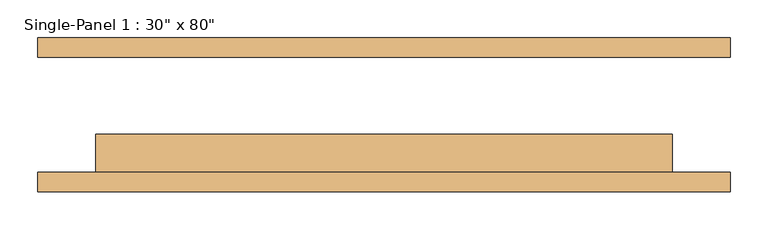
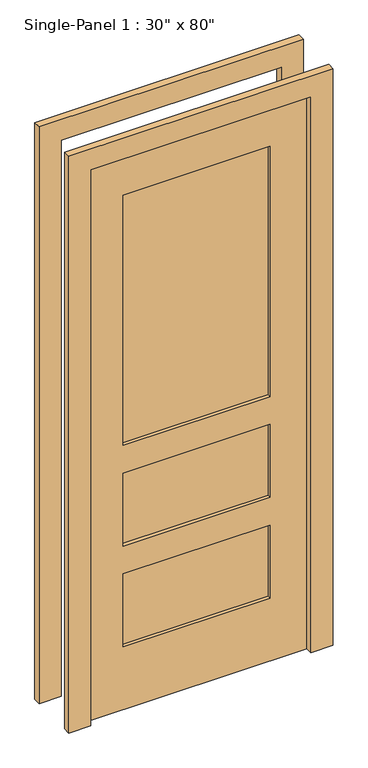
"""IFC4 building model written with IfcOpenShell, lengths in millimetres: door geometry."""

import ifcopenshell
import ifcopenshell.guid

model = None  # the IFC model being written
_history = None  # IfcOwnerHistory: only IFC2X3 demands one
_inside = {}  # id of a spatial element -> (the spatial element, [elements in it])
_under = {}  # id of a project, library or spatial element -> (it, [spatial elements below it])
_declared = {}  # id of a project -> (the project, [libraries it declares])
_typed = {}  # id of a type object -> (the type object, [elements of that type])
_made_of = {}  # id of a material, layer set ... -> (it, [elements and type objects made of it])


def new_model(schema):
    """Start an empty IFC model of exactly this schema.

    Asked for "IFC4X3", IfcOpenShell would pick the latest addendum, in which some entities
    have other attributes; the version numbers below select the first issue.
    IFC2X3 requires an IfcOwnerHistory on every rooted entity: one is made here for all.
    """
    global model, _history
    if schema == "IFC4X3":
        model = ifcopenshell.file(schema_version=(4, 3, 0, 0))
    else:
        model = ifcopenshell.file(schema=schema)
    _inside.clear()
    _under.clear()
    _declared.clear()
    _typed.clear()
    _made_of.clear()
    _history = None
    if model.schema == "IFC2X3":
        org = make("IfcOrganization", Name="unknown")
        user = make(
            "IfcPersonAndOrganization",
            ThePerson=make("IfcPerson", FamilyName="unknown"),
            TheOrganization=org,
        )
        app = make(
            "IfcApplication",
            ApplicationDeveloper=org,
            Version="unknown",
            ApplicationFullName="unknown",
            ApplicationIdentifier="unknown",
        )
        _history = make(
            "IfcOwnerHistory",
            OwningUser=user,
            OwningApplication=app,
            ChangeAction="ADDED",
            CreationDate=0,
        )
    return model


def make(cls, **values):
    """One entity of the class cls with the attributes given. An attribute that is None is left unset."""
    return model.create_entity(
        cls, **{name: value for name, value in values.items() if value is not None}
    )


def rooted(cls, **values):
    """An entity with a GlobalId (a new one), such as an element, a storey or a relation."""
    return make(cls, GlobalId=ifcopenshell.guid.new(), OwnerHistory=_history, **values)


def si_unit(unit_type, name, prefix=None):
    """IfcSIUnit, for example si_unit("LENGTHUNIT", "METRE", prefix="MILLI")."""
    return make("IfcSIUnit", UnitType=unit_type, Prefix=prefix, Name=name)


def assignment(units):
    """IfcUnitAssignment: the units of a project."""
    return None if units is None else make("IfcUnitAssignment", Units=units)


def point(xyz):
    """IfcCartesianPoint."""
    return None if xyz is None else make("IfcCartesianPoint", Coordinates=xyz)


def direction(xyz):
    """IfcDirection."""
    return None if xyz is None else make("IfcDirection", DirectionRatios=xyz)


def frame(location, z_axis=None, x_axis=None):
    """IfcAxis2Placement3D, a coordinate frame: its origin and axes. An axis left out is left unset."""
    return make(
        "IfcAxis2Placement3D",
        Location=point(location),
        Axis=direction(z_axis),
        RefDirection=direction(x_axis),
    )


def origin():
    """The frame at (0, 0, 0) with its axes left unset."""
    return frame((0.0, 0.0, 0.0))


def place(relative_to, where):
    """IfcLocalPlacement: puts the frame where relative to a parent placement (None: the world)."""
    return make(
        "IfcLocalPlacement", PlacementRelTo=relative_to, RelativePlacement=where
    )


def context(
    kind, dimensions, precision=None, world=None, true_north=None, identifier=None
):
    """IfcGeometricRepresentationContext, for example the 3D "Model" context."""
    return make(
        "IfcGeometricRepresentationContext",
        ContextIdentifier=identifier,
        ContextType=kind,
        CoordinateSpaceDimension=dimensions,
        Precision=precision,
        WorldCoordinateSystem=world,
        TrueNorth=true_north,
    )


def project(units=None, contexts=None):
    """IfcProject with its units and contexts."""
    return rooted(
        "IfcProject",
        Name="project",
        RepresentationContexts=contexts,
        UnitsInContext=assignment(units),
    )


def spatial(cls, under=None, at=None, **own):
    """A site, building, storey or space (cls), placed at a placement, below another one or the project."""
    s = rooted(cls, ObjectPlacement=at, **own)
    if under is not None:
        _under.setdefault(under.id(), (under, []))[1].append(s)
    return s


def polyline(points):
    """IfcPolyline through the points."""
    return make("IfcPolyline", Points=[point(p) for p in points])


def outline(outer, holes=None, kind="AREA"):
    """IfcArbitraryClosedProfileDef: a profile drawn as a closed curve; with holes, ...WithVoids."""
    if holes is None:
        return make("IfcArbitraryClosedProfileDef", ProfileType=kind, OuterCurve=outer)
    return make(
        "IfcArbitraryProfileDefWithVoids",
        ProfileType=kind,
        OuterCurve=outer,
        InnerCurves=holes,
    )


def extrude(swept, where, along, depth):
    """IfcExtrudedAreaSolid: the profile swept, set in the frame where, extruded along a direction by depth."""
    return make(
        "IfcExtrudedAreaSolid",
        SweptArea=swept,
        Position=where,
        ExtrudedDirection=direction(along),
        Depth=depth,
    )


def shape(context_of_items, identifier, shape_type, items):
    """IfcShapeRepresentation: the items that make up one representation, for example the "Body"."""
    return make(
        "IfcShapeRepresentation",
        ContextOfItems=context_of_items,
        RepresentationIdentifier=identifier,
        RepresentationType=shape_type,
        Items=items,
    )


def source(mapping_origin, context_of_items, identifier, shape_type, items):
    """IfcRepresentationMap: a shape defined once, which mapped items show again and again."""
    return make(
        "IfcRepresentationMap",
        MappingOrigin=mapping_origin,
        MappedRepresentation=shape(context_of_items, identifier, shape_type, items),
    )


def transform(
    local_origin,
    x_axis=None,
    y_axis=None,
    z_axis=None,
    scale=None,
    scale2=None,
    scale3=None,
    uniform=True,
):
    """IfcCartesianTransformationOperator3D, or its non-uniform kind. x_axis, y_axis, z_axis: its Axis1, 2, 3."""
    if uniform:
        return make(
            "IfcCartesianTransformationOperator3D",
            Axis1=direction(x_axis),
            Axis2=direction(y_axis),
            LocalOrigin=point(local_origin),
            Scale=scale,
            Axis3=direction(z_axis),
        )
    return make(
        "IfcCartesianTransformationOperator3DnonUniform",
        Axis1=direction(x_axis),
        Axis2=direction(y_axis),
        LocalOrigin=point(local_origin),
        Scale=scale,
        Axis3=direction(z_axis),
        Scale2=scale2,
        Scale3=scale3,
    )


def mapped(mapping_source, mapping_target):
    """IfcMappedItem: shows the shape of a source again, moved by a transform."""
    return make(
        "IfcMappedItem", MappingSource=mapping_source, MappingTarget=mapping_target
    )


def made_of(thing, what):
    """Note that an element or type object is made of a material, layer set ...; save() writes the relation."""
    if what is not None:
        _made_of.setdefault(what.id(), (what, []))[1].append(thing)
    return thing


def element(
    cls,
    number,
    at=None,
    inside=None,
    cuts=None,
    type_object=None,
    material=None,
    context=None,
    identifier="Body",
    shape_type=None,
    held_by="IfcProductDefinitionShape",
    body=None,
    shapes=None,
    **own,
):
    """One element of the class cls, such as IfcWall. Its Tag is "e" and its number.

    at: its placement. inside: the storey or other place that contains it. cuts: it is an
    opening in that element (IfcRelVoidsElement). A single representation is given by context,
    identifier, shape_type and body (its items); several are given by shapes. held_by: the class
    of the entity that holds the representations. save() writes the other relations.
    """
    e = rooted(cls, Tag="e%d" % number, ObjectPlacement=at, **own)
    if body is not None:
        shapes = [shape(context, identifier, shape_type, body)]
    if shapes is not None:
        e.Representation = make(held_by, Representations=shapes)
    if inside is not None:
        _inside.setdefault(inside.id(), (inside, []))[1].append(e)
    if cuts is not None:
        rooted(
            "IfcRelVoidsElement", RelatingBuildingElement=cuts, RelatedOpeningElement=e
        )
    if type_object is not None:
        _typed.setdefault(type_object.id(), (type_object, []))[1].append(e)
    return made_of(e, material)


def aggregate(whole, parts):
    """IfcRelAggregates: a whole, such as a stair, and the parts it consists of."""
    return rooted("IfcRelAggregates", RelatingObject=whole, RelatedObjects=parts)


def save(model, path):
    """Write the relations noted so far, then the file.

    IfcRelAggregates (storeys below a building ...), IfcRelContainedInSpatialStructure (elements
    in a storey), IfcRelDefinesByType, IfcRelAssociatesMaterial and IfcRelDeclares: one each for
    every whole, place, type object, material and project.
    """
    for whole, parts in _under.values():
        aggregate(whole, parts)
    for where, things in _inside.values():
        rooted(
            "IfcRelContainedInSpatialStructure",
            RelatedElements=things,
            RelatingStructure=where,
        )
    for kind, things in _typed.values():
        rooted("IfcRelDefinesByType", RelatedObjects=things, RelatingType=kind)
    for what, things in _made_of.values():
        rooted("IfcRelAssociatesMaterial", RelatedObjects=things, RelatingMaterial=what)
    for by, libraries in _declared.values():
        rooted("IfcRelDeclares", RelatingContext=by, RelatedDefinitions=libraries)
    model.write(path)


def door_8a7407ed(model_context):
    return source(origin(), model_context, "Body", "SweptSolid", [
        extrude(outline(polyline([(0.0, -457.2), (0.0, -381.0), (2032.0, -381.0), (2032.0, 381.0), (0.0, 381.0), (0.0, 457.2), (2108.2, 457.2), (2108.2, -457.2), (0.0, -457.2)])), frame((0.0, 76.2, 0.0), z_axis=(0.0, 1.0, 0.0), x_axis=(0.0, 0.0, 1.0)), (0.0, 0.0, 1.0), 25.4),
        extrude(outline(polyline([(0.0, 457.2), (2108.2, 457.2), (2108.2, -457.2), (0.0, -457.2), (0.0, -381.0), (2032.0, -381.0), (2032.0, 381.0), (0.0, 381.0), (0.0, 457.2)])), frame((0.0, -101.6, 0.0), z_axis=(0.0, 1.0, 0.0), x_axis=(0.0, 0.0, 1.0)), (0.0, 0.0, 1.0), 25.4),
        extrude(outline(polyline([(254.0, -38.1), (254.0, -63.5), (-254.0, -63.5), (-254.0, -38.1), (254.0, -38.1)])), frame((0.0, 0.0, 965.2), z_axis=(0.0, 0.0, 1.0), x_axis=(1.0, 0.0, 0.0)), (0.0, 0.0, 1.0), 914.4),
        extrude(outline(polyline([(254.0, -38.1), (254.0, -63.5), (-254.0, -63.5), (-254.0, -38.1), (254.0, -38.1)])), frame((0.0, 0.0, 596.9), z_axis=(0.0, 0.0, 1.0), x_axis=(1.0, 0.0, 0.0)), (0.0, 0.0, 1.0), 266.7),
        extrude(outline(polyline([(254.0, -38.1), (254.0, -63.5), (-254.0, -63.5), (-254.0, -38.1), (254.0, -38.1)])), frame((0.0, 0.0, 228.6), z_axis=(0.0, 0.0, 1.0), x_axis=(1.0, 0.0, 0.0)), (0.0, 0.0, 1.0), 266.7),
        extrude(outline(polyline([(2032.0, 381.0), (2032.0, -381.0), (0.0, -381.0), (0.0, 381.0), (2032.0, 381.0)]), holes=[polyline([(965.2, 254.0), (965.2, -254.0), (1879.6, -254.0), (1879.6, 254.0), (965.2, 254.0)]), polyline([(596.9, 254.0), (596.9, -254.0), (863.6, -254.0), (863.6, 254.0), (596.9, 254.0)]), polyline([(495.3, 254.0), (228.6, 254.0), (228.6, -254.0), (495.3, -254.0), (495.3, 254.0)])]), frame((0.0, -76.2, 0.0), z_axis=(0.0, 1.0, 0.0), x_axis=(0.0, 0.0, 1.0)), (0.0, 0.0, 1.0), 50.8),
    ])


if __name__ == "__main__":
    model = new_model("IFC4")
    model_context = context("Model", 3, world=origin())
    ifc_project = project(units=[si_unit("LENGTHUNIT", "METRE", prefix="MILLI")], contexts=[model_context])
    site = spatial("IfcSite", under=ifc_project)
    building = spatial("IfcBuilding", under=site)
    placement = place(None, origin())
    door_shape = door_8a7407ed(model_context)
    element("IfcDoor", 1, ObjectType="Single-Panel 1 : 30\" x 80\"", at=placement, inside=building, context=model_context, shape_type="MappedRepresentation", body=[
        mapped(door_shape, transform((0.0, 0.0, 0.0), x_axis=(1.0, 0.0, 0.0), y_axis=(0.0, 1.0, 0.0), z_axis=(0.0, 0.0, 1.0))),
    ])
    save(model, "model.ifc")
